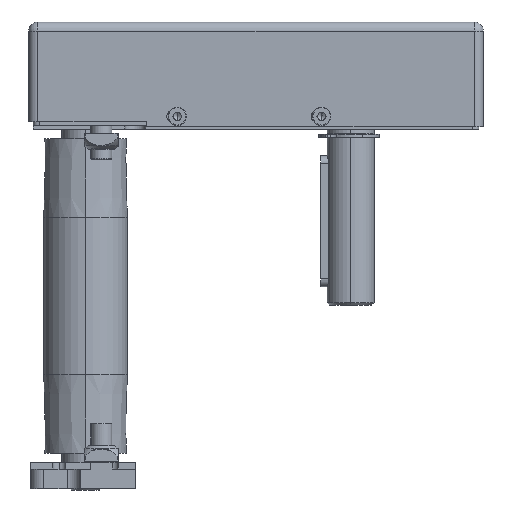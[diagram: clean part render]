
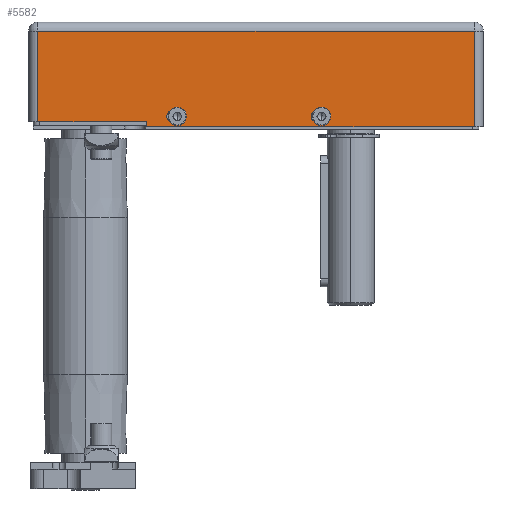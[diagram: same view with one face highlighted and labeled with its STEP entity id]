
A CAD part, left-side view. The second image highlights one B-rep face of the part: STEP entity #5582.
In plain terms, the highlighted planar face has unit normal (-1, 0, 0) as drawn and (1, 0, 0) by its records, which use the part's own axes.
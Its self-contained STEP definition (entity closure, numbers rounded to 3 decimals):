
#3 = DIRECTION ( 'NONE',  ( 1., 0., 0. ) ) ;
#38 = LINE ( 'NONE', #23009, #33748 ) ;
#639 = EDGE_CURVE ( 'NONE', #24562, #36568, #18421, .T. ) ;
#706 = CARTESIAN_POINT ( 'NONE',  ( 103.5, -57.5, 33.75 ) ) ;
#825 = EDGE_CURVE ( 'NONE', #2665, #7217, #14827, .T. ) ;
#870 = VECTOR ( 'NONE', #7120, 1000. ) ;
#913 = VECTOR ( 'NONE', #24818, 1000. ) ;
#2214 = CIRCLE ( 'NONE', #33196, 2.25 ) ;
#2298 = DIRECTION ( 'NONE',  ( 0., 0., 1. ) ) ;
#2382 = LINE ( 'NONE', #16889, #22609 ) ;
#2390 = LINE ( 'NONE', #25291, #24224 ) ;
#2436 = CARTESIAN_POINT ( 'NONE',  ( 103.5, -3.5, 40. ) ) ;
#2457 = CIRCLE ( 'NONE', #42393, 2.25 ) ;
#2654 = PLANE ( 'NONE',  #21914 ) ;
#2665 = VERTEX_POINT ( 'NONE', #6771 ) ;
#3727 = DIRECTION ( 'NONE',  ( 1., 0., 0. ) ) ;
#3805 = DIRECTION ( 'NONE',  ( -1., 0., 0. ) ) ;
#4074 = VERTEX_POINT ( 'NONE', #32837 ) ;
#4414 = EDGE_CURVE ( 'NONE', #24562, #33425, #23778, .T. ) ;
#4992 = DIRECTION ( 'NONE',  ( 1., 0., 0. ) ) ;
#5012 = LINE ( 'NONE', #29695, #870 ) ;
#5582 = ADVANCED_FACE ( 'NONE', ( #27273, #19946, #18404 ), #2654, .F. ) ;
#5634 = CARTESIAN_POINT ( 'NONE',  ( 103.5, -45., 38. ) ) ;
#6217 = EDGE_CURVE ( 'NONE', #37496, #35365, #35551, .T. ) ;
#6244 = AXIS2_PLACEMENT_3D ( 'NONE', #10495, #7458, #7183 ) ;
#6491 = ORIENTED_EDGE ( 'NONE', *, *, #7755, .T. ) ;
#6728 = AXIS2_PLACEMENT_3D ( 'NONE', #36972, #7145, #10600 ) ;
#6771 = CARTESIAN_POINT ( 'NONE',  ( 103.5, -55., 33.75 ) ) ;
#7095 = CARTESIAN_POINT ( 'NONE',  ( 103.5, -110., 38.25 ) ) ;
#7100 = DIRECTION ( 'NONE',  ( 0., 1., 0. ) ) ;
#7120 = DIRECTION ( 'NONE',  ( 0., 1., 0. ) ) ;
#7145 = DIRECTION ( 'NONE',  ( 1., 0., 0. ) ) ;
#7183 = DIRECTION ( 'NONE',  ( 0., 1., 0. ) ) ;
#7217 = VERTEX_POINT ( 'NONE', #20929 ) ;
#7225 = ORIENTED_EDGE ( 'NONE', *, *, #29124, .F. ) ;
#7458 = DIRECTION ( 'NONE',  ( 1., 0., 0. ) ) ;
#7755 = EDGE_CURVE ( 'NONE', #30967, #28068, #7932, .T. ) ;
#7902 = EDGE_CURVE ( 'NONE', #7217, #23687, #2214, .T. ) ;
#7932 = LINE ( 'NONE', #2436, #8972 ) ;
#8007 = CARTESIAN_POINT ( 'NONE',  ( 103.5, 0., 40. ) ) ;
#8972 = VECTOR ( 'NONE', #2298, 1000. ) ;
#9061 = CIRCLE ( 'NONE', #6244, 2.25 ) ;
#9405 = DIRECTION ( 'NONE',  ( 0., 1., 0. ) ) ;
#9842 = ORIENTED_EDGE ( 'NONE', *, *, #31546, .F. ) ;
#9913 = CARTESIAN_POINT ( 'NONE',  ( 103.5, 0., 40. ) ) ;
#10495 = CARTESIAN_POINT ( 'NONE',  ( 103.5, -110., 36. ) ) ;
#10600 = DIRECTION ( 'NONE',  ( 0., 1., 0. ) ) ;
#11386 = CARTESIAN_POINT ( 'NONE',  ( 103.5, -112.5, 36. ) ) ;
#11440 = CARTESIAN_POINT ( 'NONE',  ( 103.5, -170., 40. ) ) ;
#11713 = CARTESIAN_POINT ( 'NONE',  ( 103.5, -107.75, 36. ) ) ;
#11781 = ORIENTED_EDGE ( 'NONE', *, *, #23142, .F. ) ;
#12825 = ORIENTED_EDGE ( 'NONE', *, *, #42320, .F. ) ;
#13030 = DIRECTION ( 'NONE',  ( 0., 1., 0. ) ) ;
#13811 = VECTOR ( 'NONE', #41007, 1000. ) ;
#14056 = CARTESIAN_POINT ( 'NONE',  ( 103.5, -3.5, 3.5 ) ) ;
#14503 = CARTESIAN_POINT ( 'NONE',  ( 103.5, -55., 38.25 ) ) ;
#14566 = DIRECTION ( 'NONE',  ( 0., 1., 0. ) ) ;
#14582 = ORIENTED_EDGE ( 'NONE', *, *, #26547, .T. ) ;
#14827 = CIRCLE ( 'NONE', #30953, 2.25 ) ;
#15305 = ORIENTED_EDGE ( 'NONE', *, *, #825, .F. ) ;
#16540 = ORIENTED_EDGE ( 'NONE', *, *, #30538, .F. ) ;
#16688 = EDGE_CURVE ( 'NONE', #33425, #17916, #2390, .T. ) ;
#16774 = ORIENTED_EDGE ( 'NONE', *, *, #4414, .F. ) ;
#16889 = CARTESIAN_POINT ( 'NONE',  ( 103.5, -55., 33.75 ) ) ;
#17681 = ORIENTED_EDGE ( 'NONE', *, *, #35912, .F. ) ;
#17916 = VERTEX_POINT ( 'NONE', #5634 ) ;
#18404 = FACE_OUTER_BOUND ( 'NONE', #42293, .T. ) ;
#18421 = LINE ( 'NONE', #11440, #13811 ) ;
#19432 = ORIENTED_EDGE ( 'NONE', *, *, #639, .T. ) ;
#19598 = LINE ( 'NONE', #33102, #31040 ) ;
#19815 = CARTESIAN_POINT ( 'NONE',  ( 103.5, -110., 36. ) ) ;
#19946 = FACE_BOUND ( 'NONE', #34458, .T. ) ;
#20929 = CARTESIAN_POINT ( 'NONE',  ( 103.5, -52.75, 36. ) ) ;
#21123 = CARTESIAN_POINT ( 'NONE',  ( 103.5, -170., 3.5 ) ) ;
#21454 = EDGE_CURVE ( 'NONE', #17916, #28068, #19598, .T. ) ;
#21619 = CARTESIAN_POINT ( 'NONE',  ( 103.5, -55., 38.25 ) ) ;
#21914 = AXIS2_PLACEMENT_3D ( 'NONE', #9913, #3805, #26451 ) ;
#22609 = VECTOR ( 'NONE', #30256, 1000. ) ;
#22729 = DIRECTION ( 'NONE',  ( 1., 0., 0. ) ) ;
#23009 = CARTESIAN_POINT ( 'NONE',  ( 103.5, 0., 3.5 ) ) ;
#23142 = EDGE_CURVE ( 'NONE', #35786, #29472, #9061, .T. ) ;
#23687 = VERTEX_POINT ( 'NONE', #14503 ) ;
#23778 = LINE ( 'NONE', #8007, #41879 ) ;
#24137 = ORIENTED_EDGE ( 'NONE', *, *, #7902, .F. ) ;
#24224 = VECTOR ( 'NONE', #25716, 1000. ) ;
#24411 = VECTOR ( 'NONE', #36635, 1000. ) ;
#24562 = VERTEX_POINT ( 'NONE', #26111 ) ;
#24818 = DIRECTION ( 'NONE',  ( 0., -1., 0. ) ) ;
#25268 = LINE ( 'NONE', #21619, #913 ) ;
#25291 = CARTESIAN_POINT ( 'NONE',  ( 103.5, -45., 38. ) ) ;
#25716 = DIRECTION ( 'NONE',  ( 0., 0., -1. ) ) ;
#26111 = CARTESIAN_POINT ( 'NONE',  ( 103.5, -170., 40. ) ) ;
#26344 = ORIENTED_EDGE ( 'NONE', *, *, #6217, .F. ) ;
#26451 = DIRECTION ( 'NONE',  ( 0., -1., 0. ) ) ;
#26547 = EDGE_CURVE ( 'NONE', #36568, #30967, #38, .T. ) ;
#26567 = ORIENTED_EDGE ( 'NONE', *, *, #21454, .F. ) ;
#26830 = CARTESIAN_POINT ( 'NONE',  ( 103.5, -3.5, 38. ) ) ;
#27273 = FACE_BOUND ( 'NONE', #36977, .T. ) ;
#27817 = AXIS2_PLACEMENT_3D ( 'NONE', #19815, #3, #13030 ) ;
#28068 = VERTEX_POINT ( 'NONE', #26830 ) ;
#29124 = EDGE_CURVE ( 'NONE', #29472, #4074, #33205, .T. ) ;
#29237 = CARTESIAN_POINT ( 'NONE',  ( 103.5, -112.5, 38.25 ) ) ;
#29472 = VERTEX_POINT ( 'NONE', #11713 ) ;
#29695 = CARTESIAN_POINT ( 'NONE',  ( 103.5, -110., 33.75 ) ) ;
#30245 = CARTESIAN_POINT ( 'NONE',  ( 103.5, -110., 33.75 ) ) ;
#30256 = DIRECTION ( 'NONE',  ( 0., 1., 0. ) ) ;
#30328 = CARTESIAN_POINT ( 'NONE',  ( 103.5, -57.5, 38.25 ) ) ;
#30538 = EDGE_CURVE ( 'NONE', #23687, #37496, #25268, .T. ) ;
#30953 = AXIS2_PLACEMENT_3D ( 'NONE', #42120, #22729, #9405 ) ;
#30967 = VERTEX_POINT ( 'NONE', #14056 ) ;
#31040 = VECTOR ( 'NONE', #37151, 1000. ) ;
#31216 = CARTESIAN_POINT ( 'NONE',  ( 103.5, -112.5, 33.75 ) ) ;
#31546 = EDGE_CURVE ( 'NONE', #35365, #2665, #2382, .T. ) ;
#32837 = CARTESIAN_POINT ( 'NONE',  ( 103.5, -110., 38.25 ) ) ;
#33102 = CARTESIAN_POINT ( 'NONE',  ( 103.5, 15., 38. ) ) ;
#33196 = AXIS2_PLACEMENT_3D ( 'NONE', #33470, #3727, #7100 ) ;
#33205 = CIRCLE ( 'NONE', #27817, 2.25 ) ;
#33390 = VERTEX_POINT ( 'NONE', #31216 ) ;
#33425 = VERTEX_POINT ( 'NONE', #37729 ) ;
#33470 = CARTESIAN_POINT ( 'NONE',  ( 103.5, -55., 36. ) ) ;
#33748 = VECTOR ( 'NONE', #36211, 1000. ) ;
#34458 = EDGE_LOOP ( 'NONE', ( #16540, #24137, #15305, #9842, #26344 ) ) ;
#35365 = VERTEX_POINT ( 'NONE', #706 ) ;
#35513 = VERTEX_POINT ( 'NONE', #29237 ) ;
#35551 = CIRCLE ( 'NONE', #6728, 2.25 ) ;
#35786 = VERTEX_POINT ( 'NONE', #30245 ) ;
#35795 = LINE ( 'NONE', #7095, #24411 ) ;
#35912 = EDGE_CURVE ( 'NONE', #35513, #33390, #2457, .T. ) ;
#36211 = DIRECTION ( 'NONE',  ( 0., 1., 0. ) ) ;
#36270 = ORIENTED_EDGE ( 'NONE', *, *, #16688, .F. ) ;
#36568 = VERTEX_POINT ( 'NONE', #21123 ) ;
#36635 = DIRECTION ( 'NONE',  ( 0., -1., 0. ) ) ;
#36972 = CARTESIAN_POINT ( 'NONE',  ( 103.5, -57.5, 36. ) ) ;
#36977 = EDGE_LOOP ( 'NONE', ( #41199, #7225, #11781, #12825, #17681 ) ) ;
#37151 = DIRECTION ( 'NONE',  ( 0., 1., 0. ) ) ;
#37309 = DIRECTION ( 'NONE',  ( 0., 1., 0. ) ) ;
#37496 = VERTEX_POINT ( 'NONE', #30328 ) ;
#37729 = CARTESIAN_POINT ( 'NONE',  ( 103.5, -45., 40. ) ) ;
#41007 = DIRECTION ( 'NONE',  ( 0., 0., -1. ) ) ;
#41199 = ORIENTED_EDGE ( 'NONE', *, *, #41345, .F. ) ;
#41345 = EDGE_CURVE ( 'NONE', #4074, #35513, #35795, .T. ) ;
#41879 = VECTOR ( 'NONE', #37309, 1000. ) ;
#42120 = CARTESIAN_POINT ( 'NONE',  ( 103.5, -55., 36. ) ) ;
#42293 = EDGE_LOOP ( 'NONE', ( #6491, #26567, #36270, #16774, #19432, #14582 ) ) ;
#42320 = EDGE_CURVE ( 'NONE', #33390, #35786, #5012, .T. ) ;
#42393 = AXIS2_PLACEMENT_3D ( 'NONE', #11386, #4992, #14566 ) ;
